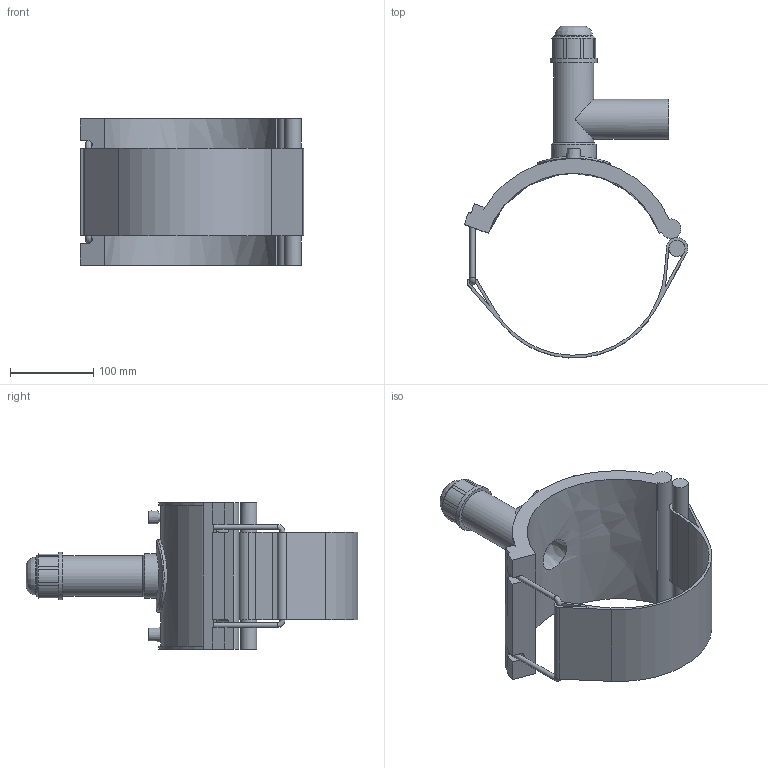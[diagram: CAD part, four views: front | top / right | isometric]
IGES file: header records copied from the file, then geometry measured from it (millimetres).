
Global section: file name: 5963BB03080015.ipt; native system: Autodesk Inventor 2019; preprocessor: unknown; author: KIM; date: 20210830.101434; units: millimetre
Bounding box: 268.63 x 398.85 x 176.02 mm (x, y, z)
Volume: 1362868.6 mm3; surface area: 318530.8 mm2
Topology: 2 solids, 2 shells, 122 faces, 304 edges, 195 vertices
Faces by surface type: plane 69, cylinder 29, revolution 12, cone 11, bspline 1
Full cylindrical faces by diameter (mm): 4 x2, 6.124 x2, 19.347 x1, 45.49 x1, 48.1 x1, 48.333 x1, 54.019 x1, 56.862 x1, 87.48 x1
